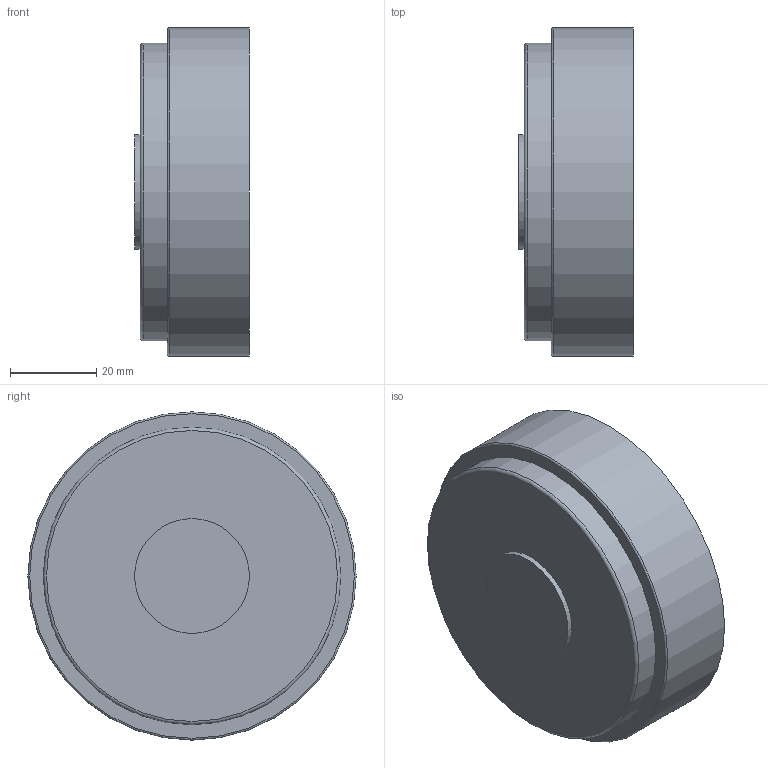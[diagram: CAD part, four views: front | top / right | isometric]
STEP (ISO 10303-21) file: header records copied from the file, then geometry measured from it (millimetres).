
FILE_DESCRIPTION(/* description */ ('VIC STRENGTHIN CAP No E496 w/Tap 1/2 inch BSPT (Concentric)','CAx-IF Rec.Pracs.---Representation and Presentation of Product Manufacturing Information (PMI)---4.0---2014-10-13'),/* implementation_level */ '2;1');
FILE_NAME(/* name */ 'C:\Users\Vjadhav\AppData\Roaming\Autodesk\ApplicationPlugins\Back Up\Victaulic_SS-StrengThin 100_Cap With Tap_No E496 (ST1)\Victaulic_SS-StrengThin 100_Cap With Tap_No E496 (ST1)_02.5 (76.1)x0.75 (65x20).stp',/* time_stamp */ '2020-07-07T18:46:46+05:00',/* author */ ('jheald'),/* organization */ ('Victaulic'),/* preprocessor_version */ 'ST-DEVELOPER v17.2',/* originating_system */ 'Autodesk Inventor 2019',/* authorisation */ '');
FILE_SCHEMA (('AP242_MANAGED_MODEL_BASED_3D_ENGINEERING_MIM_LF { 1 0 10303 442 1 1 4 }'));
Length unit declared in the file: inch
Products named in the file (1): E496-02.5 (76.1)x0.75
Bounding box: 26.67 x 76.2 x 76.2 mm (x, y, z)
Volume: 78402.1 mm3; surface area: 17154.5 mm2
Topology: 1 solids, 1 shells, 11 faces, 26 edges, 20 vertices
Faces by surface type: plane 5, cylinder 4, torus 2
Full cylindrical faces by diameter (mm): 26.67 x1, 62.713 x1, 69.088 x1, 76.2 x1
Entity records: 489 total; most frequent: DIRECTION 98, CARTESIAN_POINT 75, ORIENTED_EDGE 52, AXIS2_PLACEMENT_3D 47, EDGE_CURVE 26, CIRCLE 22, VERTEX_POINT 20, EDGE_LOOP 14
